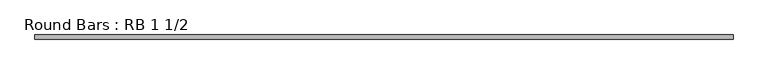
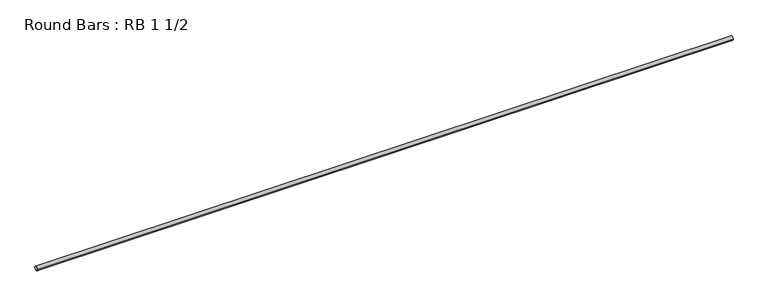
"""IFC4 building model written with IfcOpenShell, lengths in millimetres: member geometry, Round Bars : RB 1 1/2."""

from ifc_helpers import new_model, si_unit, point, frame, origin, origin_2d, place, context, project, spatial, circle_curve, trimmed, segment, composite_curve, outline, extrude, source, transform, mapped, element, save


def round_bars_rb_1_1_2_d1e83ba0(model_context):
    return source(origin(), model_context, "Body", "SweptSolid", [
        extrude(outline(composite_curve([segment(trimmed(circle_curve(origin_2d(), 19.05), [point((19.05, 0.0))], [point((-19.05, 0.0))], False, "CARTESIAN"), True, "CONTINUOUS"), segment(trimmed(circle_curve(origin_2d(), 19.05), [point((-19.05, 0.0))], [point((19.05, 0.0))], False, "CARTESIAN"), True, "CONTINUOUS")], self_intersect=False)), frame((-3244.7295418, 0.0, 0.0), z_axis=(1.0, 0.0, 0.0), x_axis=(0.0, 1.0, 0.0)), (0.0, 0.0, 1.0), 6397.7926228),
    ])


if __name__ == "__main__":
    model = new_model("IFC4")
    model_context = context("Model", 3, world=origin())
    ifc_project = project(units=[si_unit("LENGTHUNIT", "METRE", prefix="MILLI")], contexts=[model_context])
    site = spatial("IfcSite", under=ifc_project)
    building = spatial("IfcBuilding", under=site)
    placement = place(None, origin())
    round_bars_rb_1_1_2_shape = round_bars_rb_1_1_2_d1e83ba0(model_context)
    element("IfcMember", 1, ObjectType="Round Bars : RB 1 1/2", at=placement, inside=building, context=model_context, shape_type="MappedRepresentation", body=[
        mapped(round_bars_rb_1_1_2_shape, transform((0.0, 0.0, 0.0), x_axis=(1.0, 0.0, 0.0), y_axis=(0.0, 1.0, 0.0), z_axis=(0.0, 0.0, 1.0))),
    ])
    save(model, "model.ifc")
